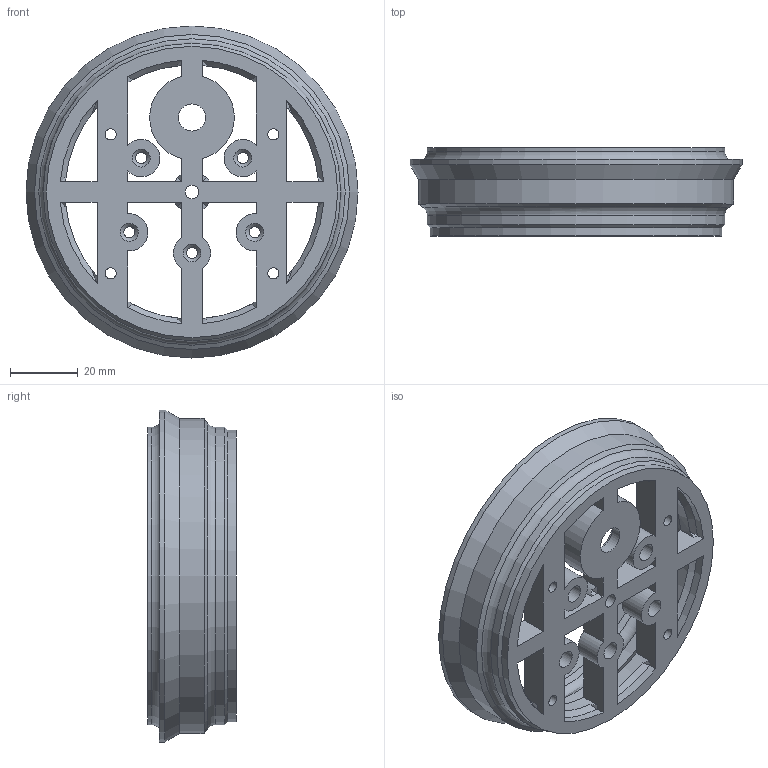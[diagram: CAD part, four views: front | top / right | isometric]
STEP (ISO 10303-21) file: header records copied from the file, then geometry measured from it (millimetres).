
FILE_DESCRIPTION(/* description */ (''),/* implementation_level */ '2;1');
FILE_NAME(/* name */ '\\192.168.3.8\kumagai\Develop\CAD\NakataOmni\DriveUnitR3\SteerBaseTL.stp',/* time_stamp */ '2024-05-27T12:44:57+09:00',/* author */ ('kumagai'),/* organization */ (''),/* preprocessor_version */ 'ST-DEVELOPER v19',/* originating_system */ 'Autodesk Inventor 2023',/* authorisation */ '');
FILE_SCHEMA (('AUTOMOTIVE_DESIGN { 1 0 10303 214 3 1 1 }'));
Length unit declared in the file: millimetre
Products named in the file (1): SteerBaseTL
Bounding box: 98 x 26 x 98 mm (x, y, z)
Volume: 55494.1 mm3; surface area: 28872.7 mm2
Topology: 1 solids, 1 shells, 152 faces, 411 edges, 263 vertices
Faces by surface type: plane 68, cylinder 58, cone 21, torus 4, sphere 1
Full cylindrical faces by diameter (mm): 3.3 x9, 4 x1, 5.3 x11, 6 x1, 8 x1, 9.8 x1, 12 x1, 20 x1, 81 x1, 86 x1, 87.8 x2, 93 x1, 98 x1
Entity records: 5005 total; most frequent: CARTESIAN_POINT 989, DIRECTION 850, ORIENTED_EDGE 822, EDGE_CURVE 411, AXIS2_PLACEMENT_3D 326, VERTEX_POINT 263, LINE 198, VECTOR 198
